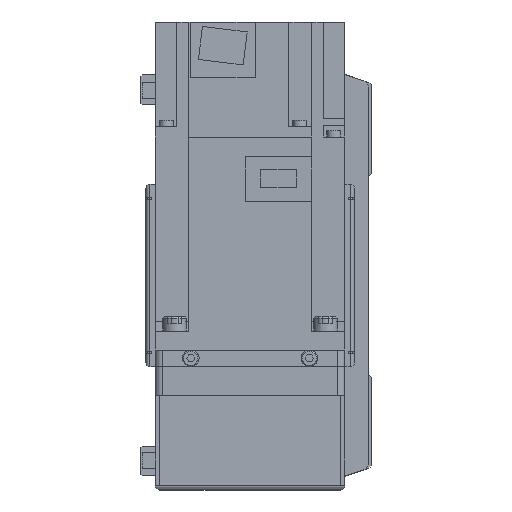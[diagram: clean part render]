
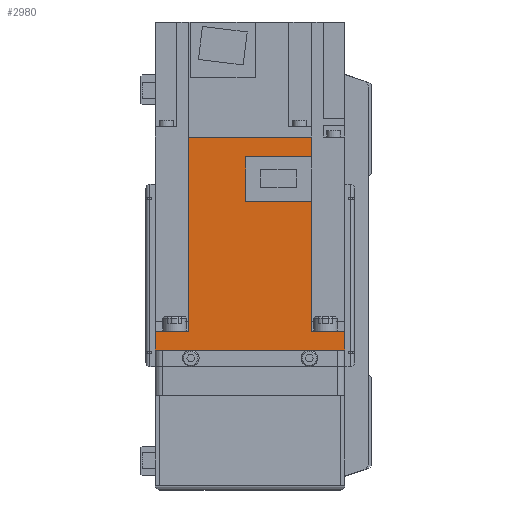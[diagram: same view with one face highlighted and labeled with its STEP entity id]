
A CAD part, left-side view. The second image highlights one B-rep face of the part: STEP entity #2980.
In plain terms, the highlighted planar face has unit normal (-1, 0, 0) as drawn and (1, 0, 0) by its records, which use the part's own axes.
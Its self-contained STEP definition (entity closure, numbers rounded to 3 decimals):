
#2980 = ADVANCED_FACE( '', ( #6300 ), #6301, .F. );
#6300 = FACE_OUTER_BOUND( '', #9794, .T. );
#6301 = PLANE( '', #9795 );
#9794 = EDGE_LOOP( '', ( #18109, #18110, #18111, #18112, #18113, #18114, #18115, #18116, #18117, #18118, #18119, #18120 ) );
#9795 = AXIS2_PLACEMENT_3D( '', #18121, #18122, #18123 );
#18109 = ORIENTED_EDGE( '', *, *, #22031, .F. );
#18110 = ORIENTED_EDGE( '', *, *, #22910, .F. );
#18111 = ORIENTED_EDGE( '', *, *, #21889, .F. );
#18112 = ORIENTED_EDGE( '', *, *, #23067, .T. );
#18113 = ORIENTED_EDGE( '', *, *, #21624, .F. );
#18114 = ORIENTED_EDGE( '', *, *, #22715, .T. );
#18115 = ORIENTED_EDGE( '', *, *, #20058, .T. );
#18116 = ORIENTED_EDGE( '', *, *, #21150, .F. );
#18117 = ORIENTED_EDGE( '', *, *, #23035, .F. );
#18118 = ORIENTED_EDGE( '', *, *, #22911, .F. );
#18119 = ORIENTED_EDGE( '', *, *, #21566, .F. );
#18120 = ORIENTED_EDGE( '', *, *, #22119, .F. );
#18121 = CARTESIAN_POINT( '', ( 40., 89.8, 40. ) );
#18122 = DIRECTION( '', ( -1., 0., 0. ) );
#18123 = DIRECTION( '', ( 0., 0., 1. ) );
#20058 = EDGE_CURVE( '', #23947, #23945, #23948, .T. );
#21150 = EDGE_CURVE( '', #25782, #23945, #25784, .T. );
#21566 = EDGE_CURVE( '', #26434, #25371, #26435, .T. );
#21624 = EDGE_CURVE( '', #26518, #26520, #26521, .T. );
#21889 = EDGE_CURVE( '', #26906, #26902, #26908, .T. );
#22031 = EDGE_CURVE( '', #25370, #27109, #27110, .T. );
#22119 = EDGE_CURVE( '', #27109, #26434, #27240, .T. );
#22715 = EDGE_CURVE( '', #26518, #23947, #28021, .T. );
#22910 = EDGE_CURVE( '', #26902, #25370, #28263, .T. );
#22911 = EDGE_CURVE( '', #25371, #28264, #28265, .T. );
#23035 = EDGE_CURVE( '', #28264, #25782, #28407, .T. );
#23067 = EDGE_CURVE( '', #26906, #26520, #28446, .T. );
#23945 = VERTEX_POINT( '', #29713 );
#23947 = VERTEX_POINT( '', #29716 );
#23948 = LINE( '', #29717, #29718 );
#25370 = VERTEX_POINT( '', #31798 );
#25371 = VERTEX_POINT( '', #31799 );
#25782 = VERTEX_POINT( '', #32336 );
#25784 = LINE( '', #32339, #32340 );
#26434 = VERTEX_POINT( '', #33371 );
#26435 = LINE( '', #33372, #33373 );
#26518 = VERTEX_POINT( '', #33485 );
#26520 = VERTEX_POINT( '', #33488 );
#26521 = LINE( '', #33489, #33490 );
#26902 = VERTEX_POINT( '', #34048 );
#26906 = VERTEX_POINT( '', #34054 );
#26908 = LINE( '', #34057, #34058 );
#27109 = VERTEX_POINT( '', #34433 );
#27110 = LINE( '', #34434, #34435 );
#27240 = LINE( '', #34715, #34716 );
#28021 = LINE( '', #35982, #35983 );
#28263 = LINE( '', #36313, #36314 );
#28264 = VERTEX_POINT( '', #36315 );
#28265 = LINE( '', #36316, #36317 );
#28407 = LINE( '', #36507, #36508 );
#28446 = LINE( '', #36556, #36557 );
#29713 = CARTESIAN_POINT( '', ( 40., 0., -40. ) );
#29716 = CARTESIAN_POINT( '', ( 40., 0., 40. ) );
#29717 = CARTESIAN_POINT( '', ( 40., 0., 40. ) );
#29718 = VECTOR( '', #37396, 1000. );
#31798 = CARTESIAN_POINT( '', ( 40., 81.4, -25.95 ) );
#31799 = CARTESIAN_POINT( '', ( 40., 62.8, -25.95 ) );
#32336 = CARTESIAN_POINT( '', ( 40., 8., -40. ) );
#32339 = CARTESIAN_POINT( '', ( 40., 89.8, -40. ) );
#32340 = VECTOR( '', #38760, 1000. );
#33371 = CARTESIAN_POINT( '', ( 40., 62.8, 1.8 ) );
#33372 = CARTESIAN_POINT( '', ( 40., 62.8, 1.8 ) );
#33373 = VECTOR( '', #39298, 1000. );
#33485 = CARTESIAN_POINT( '', ( 40., 8., 40. ) );
#33488 = CARTESIAN_POINT( '', ( 40., 8., 25.95 ) );
#33489 = CARTESIAN_POINT( '', ( 40., 8., 40. ) );
#33490 = VECTOR( '', #39362, 1000. );
#34048 = CARTESIAN_POINT( '', ( 40., 89.8, -25.95 ) );
#34054 = CARTESIAN_POINT( '', ( 40., 89.8, 25.95 ) );
#34057 = CARTESIAN_POINT( '', ( 40., 89.8, 40. ) );
#34058 = VECTOR( '', #39661, 1000. );
#34433 = CARTESIAN_POINT( '', ( 40., 81.4, 1.8 ) );
#34434 = CARTESIAN_POINT( '', ( 40., 81.4, -26. ) );
#34435 = VECTOR( '', #39816, 1000. );
#34715 = CARTESIAN_POINT( '', ( 40., 81.4, 1.8 ) );
#34716 = VECTOR( '', #39919, 1000. );
#35982 = CARTESIAN_POINT( '', ( 40., 89.8, 40. ) );
#35983 = VECTOR( '', #40588, 1000. );
#36313 = CARTESIAN_POINT( '', ( 40., 158., -25.95 ) );
#36314 = VECTOR( '', #40789, 1000. );
#36315 = CARTESIAN_POINT( '', ( 40., 8., -25.95 ) );
#36316 = CARTESIAN_POINT( '', ( 40., 158., -25.95 ) );
#36317 = VECTOR( '', #40790, 1000. );
#36507 = CARTESIAN_POINT( '', ( 40., 8., 40. ) );
#36508 = VECTOR( '', #40896, 1000. );
#36556 = CARTESIAN_POINT( '', ( 40., 158., 25.95 ) );
#36557 = VECTOR( '', #40936, 1000. );
#37396 = DIRECTION( '', ( 0., 0., -1. ) );
#38760 = DIRECTION( '', ( 0., -1., 0. ) );
#39298 = DIRECTION( '', ( 0., 0., -1. ) );
#39362 = DIRECTION( '', ( 0., 0., -1. ) );
#39661 = DIRECTION( '', ( 0., 0., -1. ) );
#39816 = DIRECTION( '', ( 0., 0., 1. ) );
#39919 = DIRECTION( '', ( 0., -1., 0. ) );
#40588 = DIRECTION( '', ( 0., -1., 0. ) );
#40789 = DIRECTION( '', ( 0., -1., 0. ) );
#40790 = DIRECTION( '', ( 0., -1., 0. ) );
#40896 = DIRECTION( '', ( 0., 0., -1. ) );
#40936 = DIRECTION( '', ( 0., -1., 0. ) );
